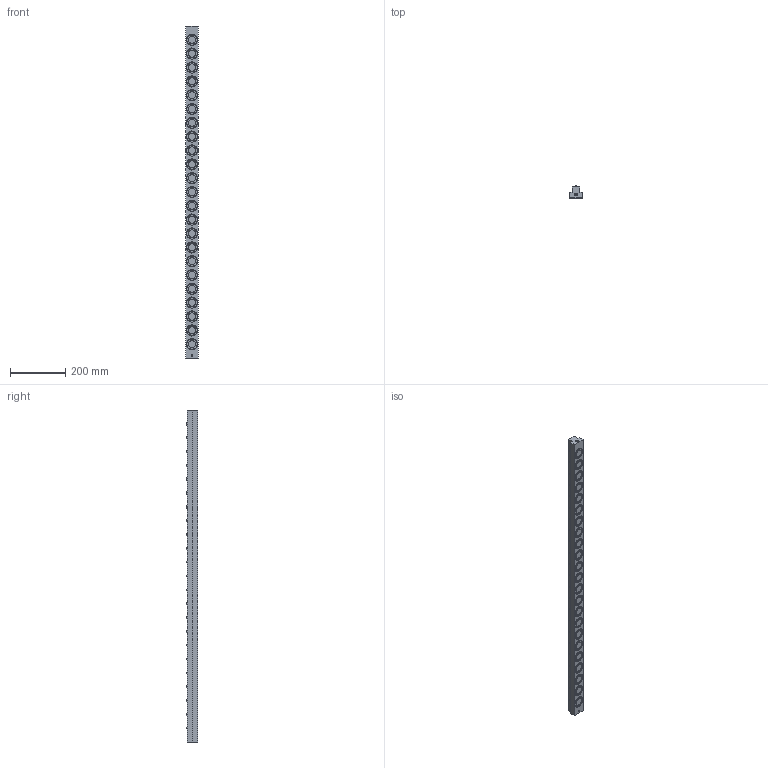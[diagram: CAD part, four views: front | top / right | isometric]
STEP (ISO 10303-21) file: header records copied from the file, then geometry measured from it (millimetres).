
FILE_DESCRIPTION (( 'STEP AP203' ), '1' );
FILE_NAME ('PVL50T-23.STEP', '2016-02-18T05:05:01', ( '' ), ( '' ), 'SwSTEP 2.0', 'SolidWorks 2013', '' );
FILE_SCHEMA (( 'CONFIG_CONTROL_DESIGN' ));
Length unit declared in the file: millimetre
Products named in the file (1): PVL50T-23
Bounding box: 45 x 42 x 1200 mm (x, y, z)
Volume: 1620881 mm3; surface area: 238563.1 mm2
Topology: 1 solids, 1 shells, 735 faces, 1731 edges, 1160 vertices
Faces by surface type: cylinder 466, plane 219, sphere 46, cone 4
Entity records: 21794 total; most frequent: DIRECTION 4275, CARTESIAN_POINT 3625, ORIENTED_EDGE 3458, AXIS2_PLACEMENT_3D 1810, EDGE_CURVE 1729, VERTEX_POINT 1160, CIRCLE 1074, EDGE_LOOP 901
